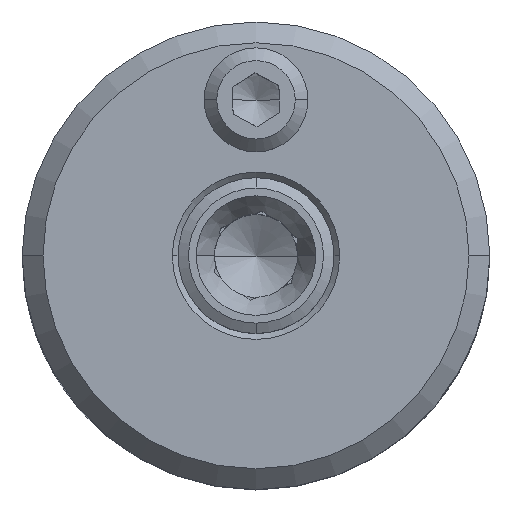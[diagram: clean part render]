
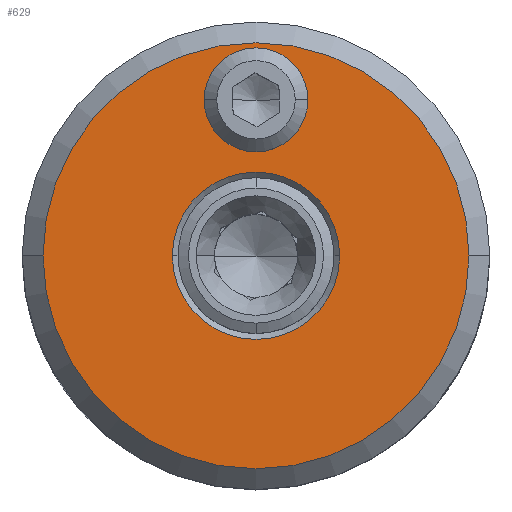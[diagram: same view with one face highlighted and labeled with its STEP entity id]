
A CAD part, top view. The second image highlights one B-rep face of the part: STEP entity #629.
In plain terms, the highlighted planar face has unit normal (0, 0, 1).
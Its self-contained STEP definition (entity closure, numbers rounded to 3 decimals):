
#46 = VERTEX_POINT ( 'NONE', #835 ) ;
#53 = VERTEX_POINT ( 'NONE', #884 ) ;
#55 = EDGE_CURVE ( 'NONE', #46, #53, #879, .T. ) ;
#72 = VERTEX_POINT ( 'NONE', #909 ) ;
#77 = EDGE_CURVE ( 'NONE', #78, #72, #904, .T. ) ;
#78 = VERTEX_POINT ( 'NONE', #899 ) ;
#611 = ORIENTED_EDGE ( 'NONE', *, *, #55, .F. ) ;
#612 = ORIENTED_EDGE ( 'NONE', *, *, #2513, .F. ) ;
#613 = ORIENTED_EDGE ( 'NONE', *, *, #614, .F. ) ;
#614 = EDGE_CURVE ( 'NONE', #2504, #2509, #1861, .T. ) ;
#629 = ADVANCED_FACE ( 'NONE', ( #1840, #1839, #1838 ), #1837, .F. ) ;
#630 = EDGE_LOOP ( 'NONE', ( #631, #632 ) ) ;
#631 = ORIENTED_EDGE ( 'NONE', *, *, #77, .F. ) ;
#632 = ORIENTED_EDGE ( 'NONE', *, *, #643, .F. ) ;
#633 = EDGE_LOOP ( 'NONE', ( #634, #611 ) ) ;
#634 = ORIENTED_EDGE ( 'NONE', *, *, #638, .F. ) ;
#635 = EDGE_LOOP ( 'NONE', ( #612, #613 ) ) ;
#638 = EDGE_CURVE ( 'NONE', #53, #46, #1831, .T. ) ;
#643 = EDGE_CURVE ( 'NONE', #72, #78, #1892, .T. ) ;
#835 = CARTESIAN_POINT ( 'NONE',  ( -1.61, 0., 11. ) ) ;
#875 = DIRECTION ( 'NONE',  ( 1., 0., 0. ) ) ;
#876 = DIRECTION ( 'NONE',  ( 0., 0., 1. ) ) ;
#877 = CARTESIAN_POINT ( 'NONE',  ( 0., 0., 11. ) ) ;
#878 = AXIS2_PLACEMENT_3D ( 'NONE', #877, #876, #875 ) ;
#879 = CIRCLE ( 'NONE', #878, 1.61 ) ;
#884 = CARTESIAN_POINT ( 'NONE',  ( 1.61, 0., 11. ) ) ;
#899 = CARTESIAN_POINT ( 'NONE',  ( 0., 2., 11. ) ) ;
#900 = DIRECTION ( 'NONE',  ( 0., -1., 0. ) ) ;
#901 = DIRECTION ( 'NONE',  ( 0., 0., 1. ) ) ;
#902 = CARTESIAN_POINT ( 'NONE',  ( 0., 3., 11. ) ) ;
#903 = AXIS2_PLACEMENT_3D ( 'NONE', #902, #901, #900 ) ;
#904 = CIRCLE ( 'NONE', #903, 1. ) ;
#909 = CARTESIAN_POINT ( 'NONE',  ( 0., 4., 11. ) ) ;
#1827 = DIRECTION ( 'NONE',  ( 1., 0., 0. ) ) ;
#1828 = DIRECTION ( 'NONE',  ( 0., 0., 1. ) ) ;
#1829 = CARTESIAN_POINT ( 'NONE',  ( 0., 0., 11. ) ) ;
#1830 = AXIS2_PLACEMENT_3D ( 'NONE', #1829, #1828, #1827 ) ;
#1831 = CIRCLE ( 'NONE', #1830, 1.61 ) ;
#1833 = DIRECTION ( 'NONE',  ( -1., 0., 0. ) ) ;
#1834 = DIRECTION ( 'NONE',  ( 0., 0., -1. ) ) ;
#1835 = CARTESIAN_POINT ( 'NONE',  ( 0., 0., 11. ) ) ;
#1836 = AXIS2_PLACEMENT_3D ( 'NONE', #1835, #1834, #1833 ) ;
#1837 = PLANE ( 'NONE',  #1836 ) ;
#1838 = FACE_OUTER_BOUND ( 'NONE', #635, .T. ) ;
#1839 = FACE_BOUND ( 'NONE', #633, .T. ) ;
#1840 = FACE_BOUND ( 'NONE', #630, .T. ) ;
#1857 = DIRECTION ( 'NONE',  ( -1., 0., 0. ) ) ;
#1858 = DIRECTION ( 'NONE',  ( 0., 0., -1. ) ) ;
#1859 = CARTESIAN_POINT ( 'NONE',  ( 0., 0., 11. ) ) ;
#1860 = AXIS2_PLACEMENT_3D ( 'NONE', #1859, #1858, #1857 ) ;
#1861 = CIRCLE ( 'NONE', #1860, 4.1 ) ;
#1884 = DIRECTION ( 'NONE',  ( 0., -1., 0. ) ) ;
#1885 = DIRECTION ( 'NONE',  ( 0., 0., 1. ) ) ;
#1886 = CARTESIAN_POINT ( 'NONE',  ( 0., 3., 11. ) ) ;
#1887 = AXIS2_PLACEMENT_3D ( 'NONE', #1886, #1885, #1884 ) ;
#1892 = CIRCLE ( 'NONE', #1887, 1. ) ;
#2263 = CARTESIAN_POINT ( 'NONE',  ( 4.1, 0., 11. ) ) ;
#2292 = DIRECTION ( 'NONE',  ( -1., 0., 0. ) ) ;
#2293 = DIRECTION ( 'NONE',  ( 0., 0., -1. ) ) ;
#2294 = AXIS2_PLACEMENT_3D ( 'NONE', #2301, #2293, #2292 ) ;
#2295 = CIRCLE ( 'NONE', #2294, 4.1 ) ;
#2301 = CARTESIAN_POINT ( 'NONE',  ( 0., 0., 11. ) ) ;
#2307 = CARTESIAN_POINT ( 'NONE',  ( -4.1, 0., 11. ) ) ;
#2504 = VERTEX_POINT ( 'NONE', #2263 ) ;
#2509 = VERTEX_POINT ( 'NONE', #2307 ) ;
#2513 = EDGE_CURVE ( 'NONE', #2509, #2504, #2295, .T. ) ;
